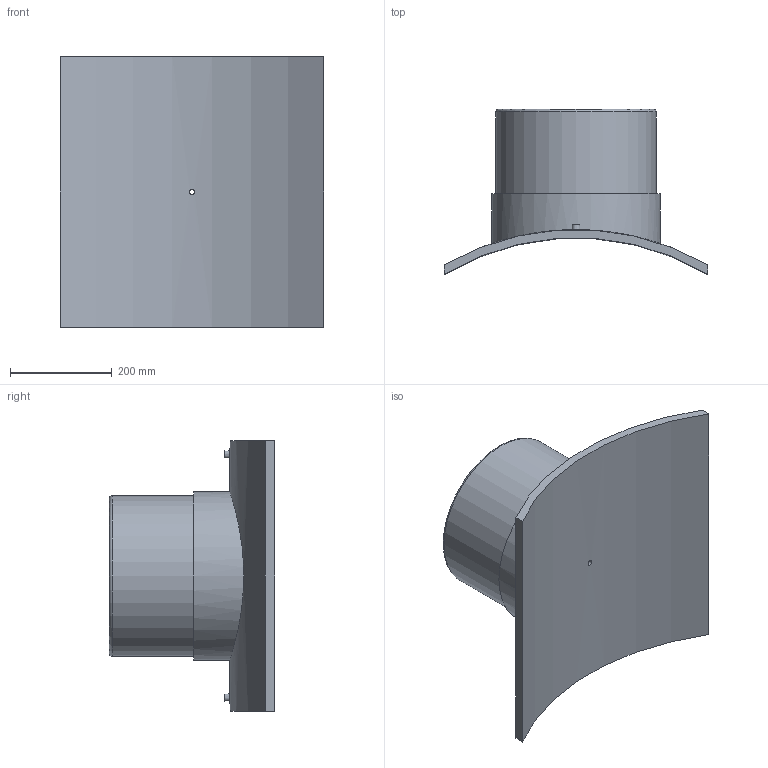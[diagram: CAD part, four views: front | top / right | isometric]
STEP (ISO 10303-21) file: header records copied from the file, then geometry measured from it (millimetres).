
FILE_DESCRIPTION(/* description */ ('PLASSON BRANCH SADDLE 1000x315'),/* implementation_level */ '2;1');
FILE_NAME(/* name */ 'C:\Dropbox\99-16-3568-Processing\ElectroFusion Fittings\495803\4958031000315T.ipt.stp',/* time_stamp */ '2021-02-25T09:43:16+02:00',/* author */ ('KIM'),/* organization */ (''),/* preprocessor_version */ 'ST-DEVELOPER v17.2',/* originating_system */ 'Autodesk Inventor 2019',/* authorisation */ '');
FILE_SCHEMA (('AUTOMOTIVE_DESIGN { 1 0 10303 214 3 1 1 }'));
Length unit declared in the file: millimetre
Products named in the file (1): 4958031000315T
Bounding box: 516 x 323.71 x 530 mm (x, y, z)
Volume: 12165738 mm3; surface area: 1062059.9 mm2
Topology: 1 solids, 1 shells, 29 faces, 60 edges, 43 vertices
Faces by surface type: plane 13, cylinder 12, torus 2, cone 2
Full cylindrical faces by diameter (mm): 4 x2, 9.6 x1, 10 x2, 16 x1, 252 x1, 315 x1, 330.75 x1
Entity records: 1086 total; most frequent: CARTESIAN_POINT 400, DIRECTION 139, ORIENTED_EDGE 120, EDGE_CURVE 60, AXIS2_PLACEMENT_3D 60, VERTEX_POINT 43, EDGE_LOOP 41, CIRCLE 30
